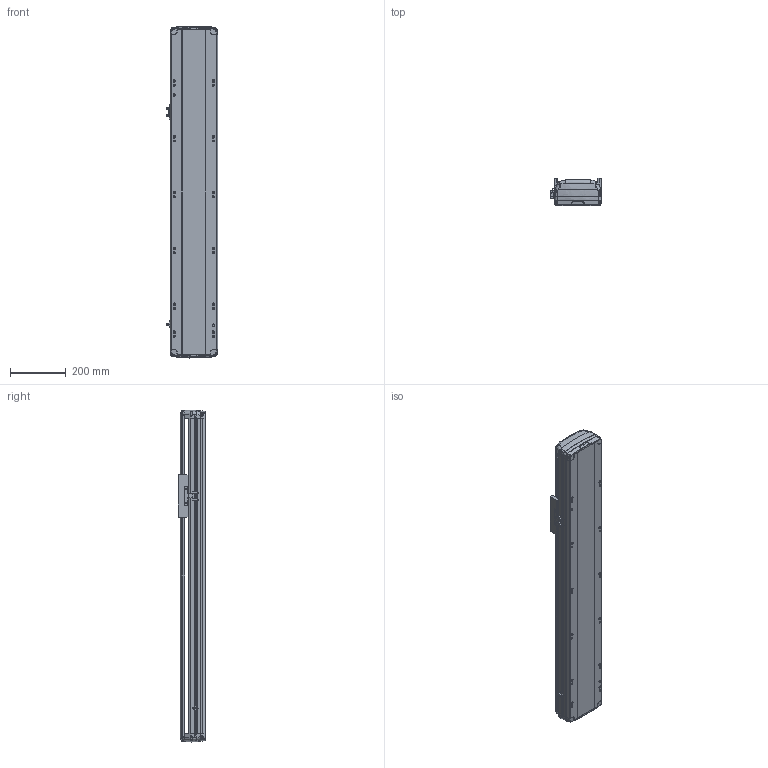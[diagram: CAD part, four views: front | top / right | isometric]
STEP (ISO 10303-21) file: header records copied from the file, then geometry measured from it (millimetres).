
FILE_DESCRIPTION (( 'STEP AP214' ), '1' );
FILE_NAME ('RTH17-XX-750-B-M40B-C4.STEP', '2025-10-24T09:16:58', ( '' ), ( '' ), 'SwSTEP 2.0', 'SolidWorks 2018', '' );
FILE_SCHEMA (( 'AUTOMOTIVE_DESIGN' ));
Length unit declared in the file: millimetre
Products named in the file (7): N_RTH17-E-004丝杆螺母连接座^RTH17-XX-XX-B-M40B-C4（方程式）; N_OMRON EE-SX672 換覜ん^RTH17-XX-XX-B-M40B-C4ㄗ源最宒ㄘ; RTH17-XX-750-B-M40B-C4; N_RTH17-M-011B底座^RTH17-XX-XX-B-M40B-C4（方程式）; N_RTH17-GY-001P^RTH17-XX-XX-B-M40B-C4（方程式）; N_RTH-L-012 感应片(外置)^RTH17-XX-XX-B-M40B-C4（方程式）; N_RTH17-M-007B上盖^RTH17-XX-XX-B-M40B-C4（方程式）
Assembly tree (9 placements, depth 2):
  RTH17-XX-750-B-M40B-C4
    N_RTH17-M-011B底座^RTH17-XX-XX-B-M40B-C4（方程式）
    N_RTH17-M-007B上盖^RTH17-XX-XX-B-M40B-C4（方程式）
    N_OMRON EE-SX672 換覜ん^RTH17-XX-XX-B-M40B-C4ㄗ源最宒ㄘ  x3
    N_RTH-L-012 感应片(外置)^RTH17-XX-XX-B-M40B-C4（方程式）
    N_RTH17-E-004丝杆螺母连接座^RTH17-XX-XX-B-M40B-C4（方程式）
    N_RTH17-GY-001P^RTH17-XX-XX-B-M40B-C4（方程式）  x2
Bounding box: 183.5 x 97 x 1189.88 mm (x, y, z)
Volume: 8736401.3 mm3; surface area: 1213522.6 mm2
Topology: 7 solids, 11 shells, 1736 faces, 4880 edges, 3170 vertices
Faces by surface type: plane 811, cylinder 459, bspline 420, cone 28, torus 18
Entity records: 41046 total; most frequent: CARTESIAN_POINT 17043, ORIENTED_EDGE 5264, DIRECTION 4156, EDGE_CURVE 2636, VERTEX_POINT 1724, VECTOR 1436, LINE 1436, AXIS2_PLACEMENT_3D 1360
